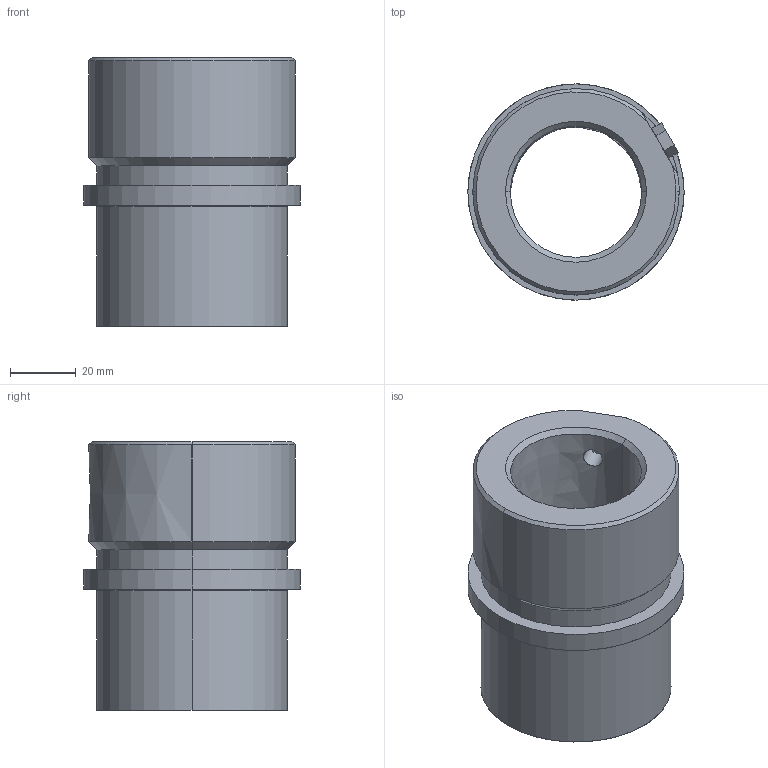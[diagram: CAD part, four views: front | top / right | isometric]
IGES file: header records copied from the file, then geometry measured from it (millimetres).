
Start section: START RECORD GO HERE.
Global section: file name: 741-40.igs; native system: DASSAULT SYSTEMES CATIA V5 R20 - www.3ds.com; preprocessor: CATIA Version 5 Release 20 ; author: Utente; organization: NB04-ASUS; date: 20210120.185845; units: millimetre
Bounding box: 66 x 66 x 82 mm (x, y, z)
Surface area: 31113.9 mm2 (no closed solid volume)
Topology: 0 solids, 0 shells, 42 faces, 186 edges, 186 vertices
Faces by surface type: revolution 27, plane 15
